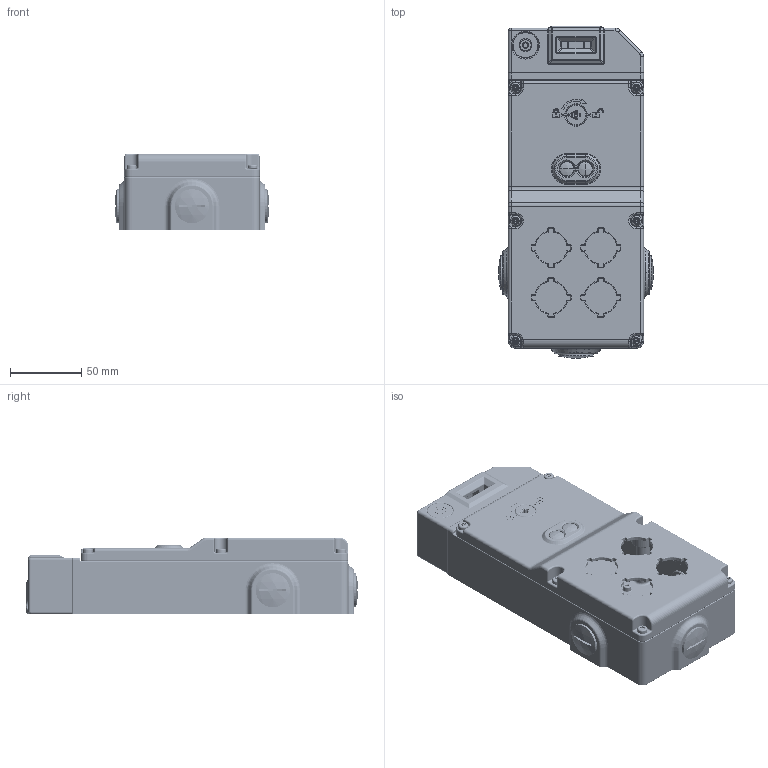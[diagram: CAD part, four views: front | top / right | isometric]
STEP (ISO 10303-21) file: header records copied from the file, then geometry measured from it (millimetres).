
FILE_DESCRIPTION (( 'STEP AP203' ), '1' );
FILE_NAME ('521-UGB4-KLT-SS-RFID (STEP Format).STEP', '2017-08-23T13:50:25', ( '' ), ( '' ), 'SwSTEP 2.0', 'SolidWorks 2015', '' );
FILE_SCHEMA (( 'CONFIG_CONTROL_DESIGN' ));
Products named in the file (1): 521-UGB4-KLT-SS-RFID (STEP Format)
Bounding box: 108.79 x 233.39 x 54 mm (x, y, z)
Volume: 298884.5 mm3; surface area: 185729.4 mm2
Topology: 26 solids, 26 shells, 4429 faces, 10401 edges, 5903 vertices
Faces by surface type: cylinder 1836, plane 975, torus 873, cone 310, bspline 291, sphere 144
Entity records: 133330 total; most frequent: CARTESIAN_POINT 33113, DIRECTION 22703, ORIENTED_EDGE 20300, EDGE_CURVE 10150, AXIS2_PLACEMENT_3D 9433, VERTEX_POINT 5891, CIRCLE 5294, EDGE_LOOP 4623
